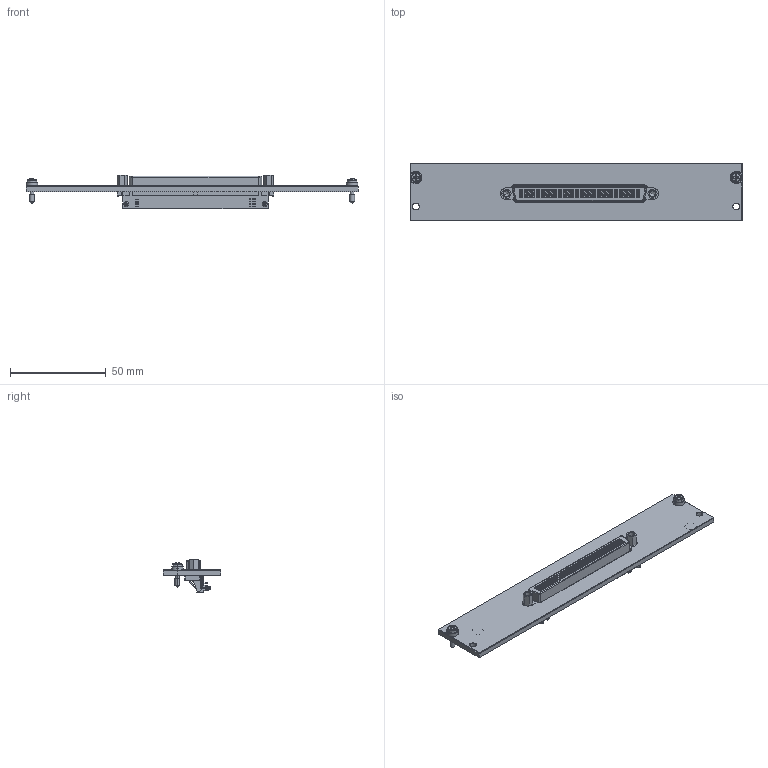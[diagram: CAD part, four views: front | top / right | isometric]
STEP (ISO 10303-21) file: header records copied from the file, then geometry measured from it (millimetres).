
FILE_DESCRIPTION((''),'2;1');
FILE_NAME('CU_SCXI-1169','2009-11-25T',('jjorden'),(''),'PRO/ENGINEER BY PARAMETRIC TECHNOLOGY CORPORATION, 2006080','PRO/ENGINEER BY PARAMETRIC TECHNOLOGY CORPORATION, 2006080','');
FILE_SCHEMA(('CONFIG_CONTROL_DESIGN'));
Length unit declared in the file: inch
Products named in the file (1): CU_SCXI-1169
Bounding box: 173.02 x 30.18 x 17.51 mm (x, y, z)
Volume: 18349.2 mm3; surface area: 20360 mm2
Topology: 1 solids, 1 shells, 2171 faces, 5714 edges, 3770 vertices
Faces by surface type: plane 2036, cylinder 97, cone 26, torus 8, sphere 4
Entity records: 65996 total; most frequent: CARTESIAN_POINT 11901, ORIENTED_EDGE 11412, DIRECTION 10308, EDGE_CURVE 5706, VECTOR 5394, LINE 5394, VERTEX_POINT 3770, EDGE_LOOP 2476
